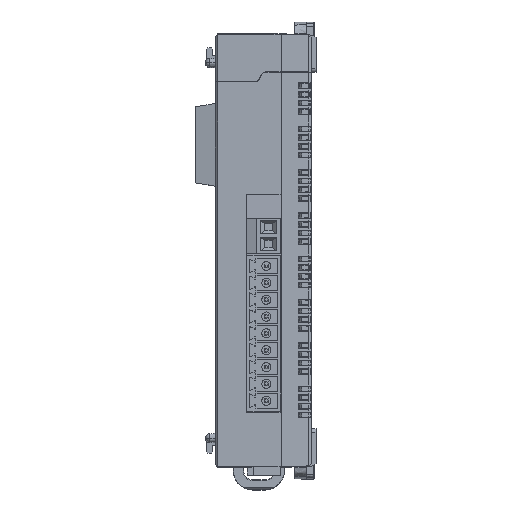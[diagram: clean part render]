
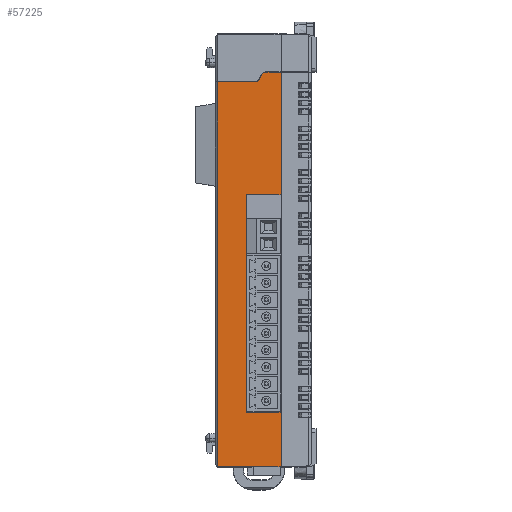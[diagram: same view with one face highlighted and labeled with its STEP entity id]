
A CAD part, top view. The second image highlights one B-rep face of the part: STEP entity #57225.
In plain terms, the highlighted planar face has unit normal (0, 0, 1).
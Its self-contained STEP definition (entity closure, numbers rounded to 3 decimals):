
#509 = DIRECTION ( 'NONE',  ( 1., 0., 0. ) ) ;
#1302 = EDGE_CURVE ( 'NONE', #24290, #15808, #94112, .T. ) ;
#4647 = EDGE_CURVE ( 'NONE', #15894, #81196, #57454, .T. ) ;
#6412 = EDGE_CURVE ( 'NONE', #73077, #15894, #13780, .T. ) ;
#8368 = CARTESIAN_POINT ( 'NONE',  ( -13.2, 35., 30. ) ) ;
#9827 = CARTESIAN_POINT ( 'NONE',  ( -13.2, -45., 30. ) ) ;
#10562 = CARTESIAN_POINT ( 'NONE',  ( -13.2, -45., 30. ) ) ;
#12981 = AXIS2_PLACEMENT_3D ( 'NONE', #14058, #105357, #68361 ) ;
#13780 = LINE ( 'NONE', #10562, #110149 ) ;
#14058 = CARTESIAN_POINT ( 'NONE',  ( -3.123, 36., 30. ) ) ;
#14812 = LINE ( 'NONE', #42009, #42208 ) ;
#15808 = VERTEX_POINT ( 'NONE', #111117 ) ;
#15894 = VERTEX_POINT ( 'NONE', #9827 ) ;
#18373 = ORIENTED_EDGE ( 'NONE', *, *, #109523, .F. ) ;
#18599 = DIRECTION ( 'NONE',  ( 0., -1., 0. ) ) ;
#22835 = FACE_OUTER_BOUND ( 'NONE', #119384, .T. ) ;
#24290 = VERTEX_POINT ( 'NONE', #72063 ) ;
#25253 = LINE ( 'NONE', #59011, #38204 ) ;
#27888 = CARTESIAN_POINT ( 'NONE',  ( -5.432, 36., 30. ) ) ;
#28591 = LINE ( 'NONE', #100505, #77510 ) ;
#30271 = EDGE_CURVE ( 'NONE', #24290, #105680, #67924, .T. ) ;
#31489 = CARTESIAN_POINT ( 'NONE',  ( -7.2, 11.6, 30. ) ) ;
#36004 = CARTESIAN_POINT ( 'NONE',  ( 0., 11.6, 30. ) ) ;
#36259 = CARTESIAN_POINT ( 'NONE',  ( -7.2, -33.6, 30. ) ) ;
#36299 = VECTOR ( 'NONE', #87060, 1000. ) ;
#36705 = EDGE_CURVE ( 'NONE', #43818, #82184, #62189, .T. ) ;
#38204 = VECTOR ( 'NONE', #68238, 1000. ) ;
#40096 = EDGE_CURVE ( 'NONE', #71747, #116071, #47017, .T. ) ;
#40978 = EDGE_CURVE ( 'NONE', #67768, #71747, #84172, .T. ) ;
#40995 = CARTESIAN_POINT ( 'NONE',  ( -7.2, 11.6, 30. ) ) ;
#42009 = CARTESIAN_POINT ( 'NONE',  ( -7.2, 11.6, 30. ) ) ;
#42208 = VECTOR ( 'NONE', #69328, 1000. ) ;
#43818 = VERTEX_POINT ( 'NONE', #105616 ) ;
#46021 = EDGE_CURVE ( 'NONE', #54424, #43818, #28591, .T. ) ;
#46395 = AXIS2_PLACEMENT_3D ( 'NONE', #106253, #78869, #69647 ) ;
#47017 = LINE ( 'NONE', #85024, #81611 ) ;
#53914 = DIRECTION ( 'NONE',  ( 1., 0., 0. ) ) ;
#54424 = VERTEX_POINT ( 'NONE', #87975 ) ;
#55541 = CIRCLE ( 'NONE', #12981, 1. ) ;
#57225 = ADVANCED_FACE ( 'NONE', ( #22835 ), #98163, .T. ) ;
#57454 = LINE ( 'NONE', #89930, #91925 ) ;
#59011 = CARTESIAN_POINT ( 'NONE',  ( -4.855, 35., 30. ) ) ;
#59508 = DIRECTION ( 'NONE',  ( 0., -1., 0. ) ) ;
#59705 = EDGE_CURVE ( 'NONE', #73077, #105680, #25253, .T. ) ;
#62189 = LINE ( 'NONE', #67372, #36299 ) ;
#64530 = DIRECTION ( 'NONE',  ( 0., 0., -1. ) ) ;
#67372 = CARTESIAN_POINT ( 'NONE',  ( 0., 45., 30. ) ) ;
#67768 = VERTEX_POINT ( 'NONE', #31489 ) ;
#67924 = CIRCLE ( 'NONE', #109472, 1. ) ;
#68238 = DIRECTION ( 'NONE',  ( 1., 0., 0. ) ) ;
#68361 = DIRECTION ( 'NONE',  ( 0., -1., 0. ) ) ;
#69328 = DIRECTION ( 'NONE',  ( -1., 0., 0. ) ) ;
#69647 = DIRECTION ( 'NONE',  ( 0., -1., 0. ) ) ;
#70050 = DIRECTION ( 'NONE',  ( 0.5, 0.866, 0. ) ) ;
#71747 = VERTEX_POINT ( 'NONE', #36259 ) ;
#72063 = CARTESIAN_POINT ( 'NONE',  ( -4.566, 35.5, 30. ) ) ;
#73077 = VERTEX_POINT ( 'NONE', #8368 ) ;
#73147 = ORIENTED_EDGE ( 'NONE', *, *, #40978, .F. ) ;
#73347 = EDGE_CURVE ( 'NONE', #116071, #81196, #78148, .T. ) ;
#73485 = ORIENTED_EDGE ( 'NONE', *, *, #36705, .F. ) ;
#77510 = VECTOR ( 'NONE', #53914, 1000. ) ;
#78148 = LINE ( 'NONE', #80711, #79540 ) ;
#78869 = DIRECTION ( 'NONE',  ( 0., 0., 1. ) ) ;
#79540 = VECTOR ( 'NONE', #88838, 1000. ) ;
#80711 = CARTESIAN_POINT ( 'NONE',  ( 0., 45., 30. ) ) ;
#81196 = VERTEX_POINT ( 'NONE', #88925 ) ;
#81611 = VECTOR ( 'NONE', #95027, 1000. ) ;
#82184 = VERTEX_POINT ( 'NONE', #36004 ) ;
#84172 = LINE ( 'NONE', #40995, #110129 ) ;
#85024 = CARTESIAN_POINT ( 'NONE',  ( -7.2, -33.6, 30. ) ) ;
#87060 = DIRECTION ( 'NONE',  ( 0., -1., 0. ) ) ;
#87503 = ORIENTED_EDGE ( 'NONE', *, *, #59705, .F. ) ;
#87975 = CARTESIAN_POINT ( 'NONE',  ( -3.123, 37., 30. ) ) ;
#88838 = DIRECTION ( 'NONE',  ( 0., -1., 0. ) ) ;
#88925 = CARTESIAN_POINT ( 'NONE',  ( 0., -45., 30. ) ) ;
#89395 = EDGE_CURVE ( 'NONE', #54424, #15808, #55541, .T. ) ;
#89930 = CARTESIAN_POINT ( 'NONE',  ( -13.7, -45., 30. ) ) ;
#91925 = VECTOR ( 'NONE', #509, 1000. ) ;
#94112 = LINE ( 'NONE', #99351, #96992 ) ;
#95027 = DIRECTION ( 'NONE',  ( 1., 0., 0. ) ) ;
#95447 = ORIENTED_EDGE ( 'NONE', *, *, #46021, .F. ) ;
#96992 = VECTOR ( 'NONE', #70050, 1000. ) ;
#98163 = PLANE ( 'NONE',  #46395 ) ;
#99013 = ORIENTED_EDGE ( 'NONE', *, *, #73347, .F. ) ;
#99351 = CARTESIAN_POINT ( 'NONE',  ( -3.7, 37., 30. ) ) ;
#100505 = CARTESIAN_POINT ( 'NONE',  ( 0., 37., 30. ) ) ;
#102189 = ORIENTED_EDGE ( 'NONE', *, *, #89395, .T. ) ;
#105357 = DIRECTION ( 'NONE',  ( 0., 0., 1. ) ) ;
#105616 = CARTESIAN_POINT ( 'NONE',  ( 0., 37., 30. ) ) ;
#105680 = VERTEX_POINT ( 'NONE', #110364 ) ;
#106253 = CARTESIAN_POINT ( 'NONE',  ( -13.7, 45., 30. ) ) ;
#106579 = ORIENTED_EDGE ( 'NONE', *, *, #1302, .F. ) ;
#106732 = CARTESIAN_POINT ( 'NONE',  ( 0., -33.6, 30. ) ) ;
#109472 = AXIS2_PLACEMENT_3D ( 'NONE', #27888, #64530, #18599 ) ;
#109523 = EDGE_CURVE ( 'NONE', #82184, #67768, #14812, .T. ) ;
#109872 = ORIENTED_EDGE ( 'NONE', *, *, #6412, .T. ) ;
#110129 = VECTOR ( 'NONE', #59508, 1000. ) ;
#110149 = VECTOR ( 'NONE', #112346, 1000. ) ;
#110364 = CARTESIAN_POINT ( 'NONE',  ( -5.432, 35., 30. ) ) ;
#111117 = CARTESIAN_POINT ( 'NONE',  ( -3.989, 36.5, 30. ) ) ;
#112346 = DIRECTION ( 'NONE',  ( 0., -1., 0. ) ) ;
#113625 = ORIENTED_EDGE ( 'NONE', *, *, #40096, .F. ) ;
#116071 = VERTEX_POINT ( 'NONE', #106732 ) ;
#116832 = ORIENTED_EDGE ( 'NONE', *, *, #30271, .T. ) ;
#118952 = ORIENTED_EDGE ( 'NONE', *, *, #4647, .T. ) ;
#119384 = EDGE_LOOP ( 'NONE', ( #18373, #73485, #95447, #102189, #106579, #116832, #87503, #109872, #118952, #99013, #113625, #73147 ) ) ;
